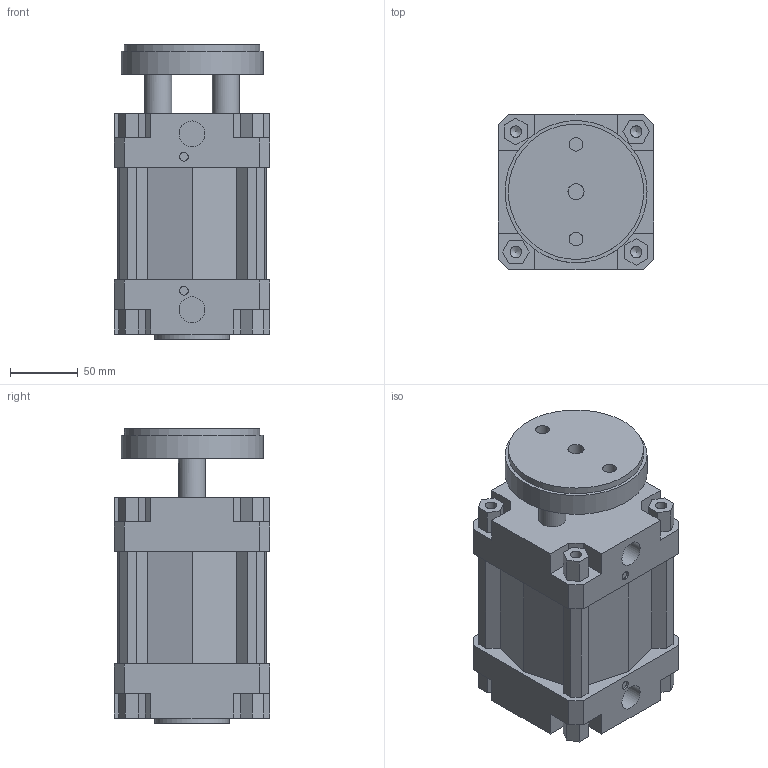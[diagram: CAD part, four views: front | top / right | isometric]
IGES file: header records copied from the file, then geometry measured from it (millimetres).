
Global section: file name: 132#_100_0025_01; native system: Autodesk Inventor 2014; preprocessor: unknown; author: A. Manieri; date: 20161006.163600; units: millimetre
Bounding box: 115 x 115 x 218 mm (x, y, z)
Volume: 1854981.8 mm3; surface area: 236751.7 mm2
Topology: 2 solids, 2 shells, 180 faces, 491 edges, 335 vertices
Faces by surface type: bspline 180
